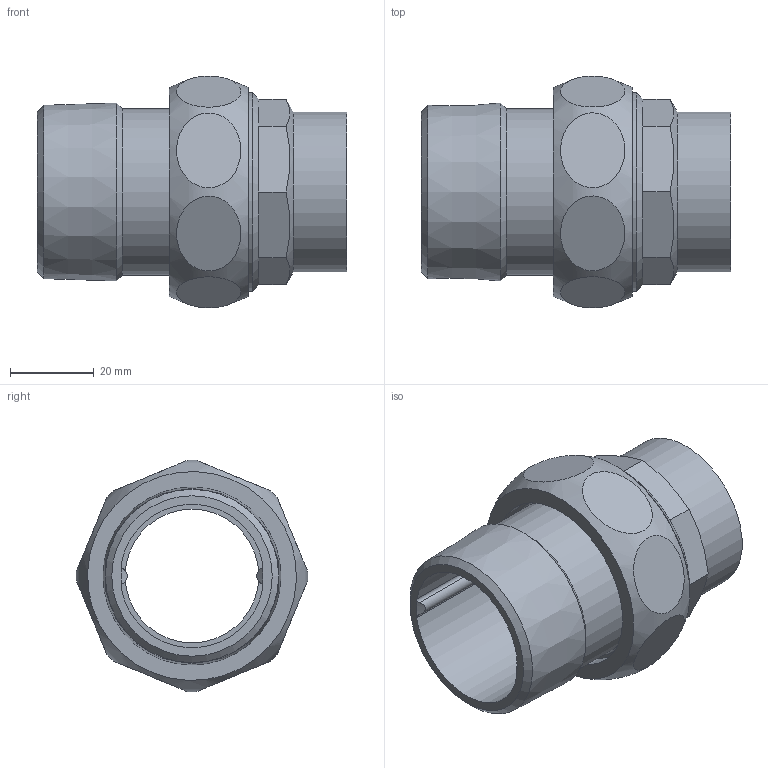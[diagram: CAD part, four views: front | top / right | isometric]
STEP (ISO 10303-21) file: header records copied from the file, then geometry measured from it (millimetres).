
FILE_DESCRIPTION((''),'2;1');
FILE_NAME('G:\Engineering\Public\RYSUNKI\SANHA POLSKA\4331g\step\14331g_35-114(2).stp','2013-09-18T07:32:48',('haldrzynski'),(''),'Autodesk Inventor 2009','Autodesk Inventor 2009','');
FILE_SCHEMA(('AUTOMOTIVE_DESIGN { 1 0 10303 214 1 1 1 1 }'));
Length unit declared in the file: millimetre
Products named in the file (5): 14331g_35-114(2); 14371_114-112(2); 14374_112(1); 1DCU112; 14370_35-112(2)
Assembly tree (4 placements, depth 2):
  14331g_35-114(2)
    14371_114-112(2)
    14374_112(1)
    1DCU112
    14370_35-112(2)
Bounding box: 74 x 55.49 x 55.49 mm (x, y, z)
Volume: 46793.3 mm3; surface area: 28998.4 mm2
Topology: 4 solids, 4 shells, 59 faces, 122 edges, 82 vertices
Faces by surface type: plane 28, cylinder 18, cone 11, bspline 2
Full cylindrical faces by diameter (mm): 32 x1, 33 x1, 35 x1, 38.4 x1, 40 x1, 42.5 x1, 44 x1, 44.5 x1, 44.845 x1, 47.803 x1
Entity records: 3182 total; most frequent: CARTESIAN_POINT 1872, DIRECTION 246, ORIENTED_EDGE 202, AXIS2_PLACEMENT_3D 111, EDGE_CURVE 101, EDGE_LOOP 98, VERTEX_POINT 81, FACE_OUTER_BOUND 59
